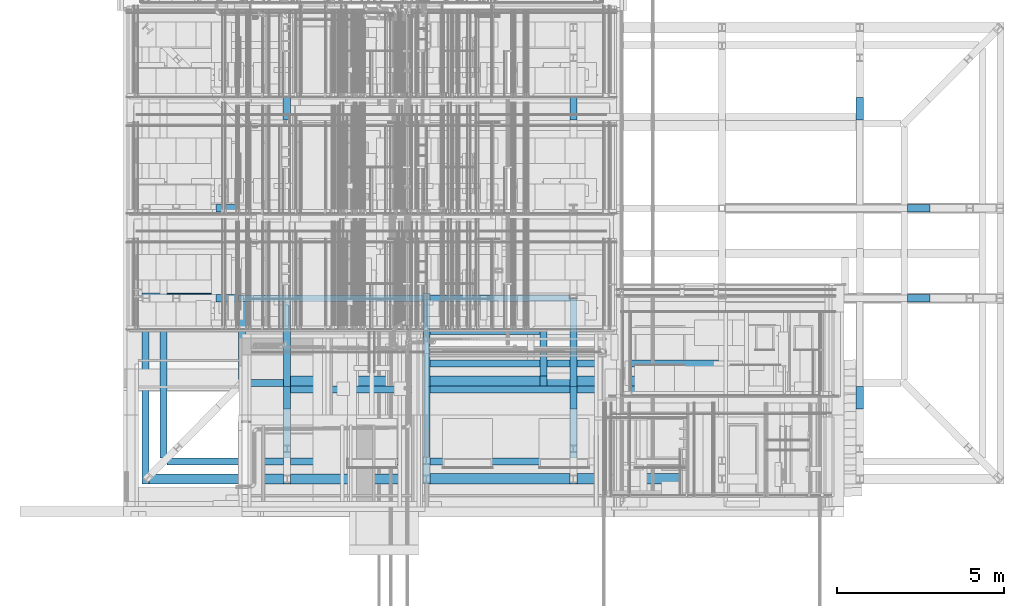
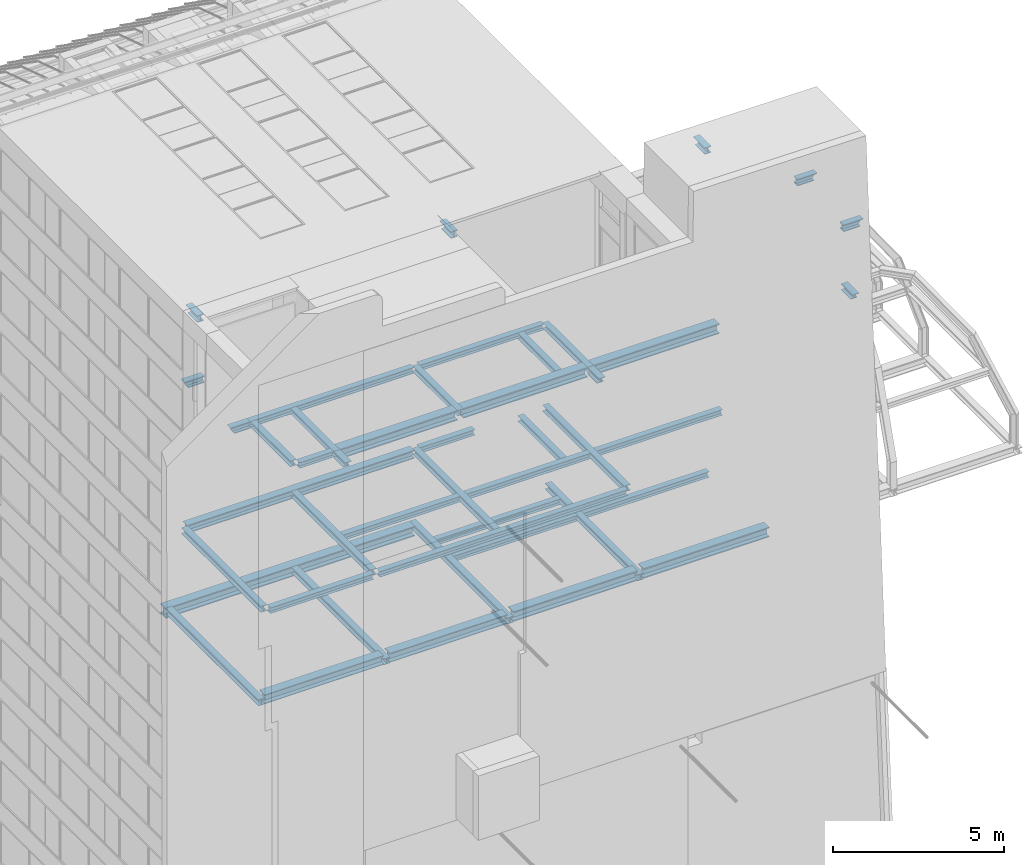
# One storey, part 4 of 583: 35 beams, 10 columns.
"""IFC2X3 building model written with IfcOpenShell, lengths in metres."""

from ifc_helpers import new_model, entity, si_unit, converted_unit, derived_unit, money_unit, direction, frame, origin_with_axes, place, context, subcontext, project, spatial, polyline, outline, extrude, clip, halfspace, material, type_object, element, save


model = new_model("IFC2X3")

# Units and contexts
model_context = context("Model", 3, precision=1e-05, world=origin_with_axes(), true_north=direction((0.0, 1.0)))
body_context = subcontext(model_context, "Body", "Model", "MODEL_VIEW", scale=1.0)
ifc_project = project(units=[si_unit("LENGTHUNIT", "METRE"), si_unit("AREAUNIT", "SQUARE_METRE"), si_unit("VOLUMEUNIT", "CUBIC_METRE"), si_unit("ABSORBEDDOSEUNIT", "GRAY"), si_unit("AMOUNTOFSUBSTANCEUNIT", "MOLE"), si_unit("DOSEEQUIVALENTUNIT", "SIEVERT"), si_unit("ELECTRICCAPACITANCEUNIT", "FARAD"), si_unit("ELECTRICCHARGEUNIT", "COULOMB"), si_unit("ELECTRICCONDUCTANCEUNIT", "SIEMENS"), si_unit("ELECTRICCURRENTUNIT", "AMPERE"), si_unit("ELECTRICRESISTANCEUNIT", "OHM"), si_unit("ELECTRICVOLTAGEUNIT", "VOLT"), si_unit("ENERGYUNIT", "JOULE"), si_unit("FORCEUNIT", "NEWTON"), si_unit("FREQUENCYUNIT", "HERTZ"), si_unit("ILLUMINANCEUNIT", "LUX"), si_unit("INDUCTANCEUNIT", "HENRY"), si_unit("LUMINOUSFLUXUNIT", "LUMEN"), si_unit("LUMINOUSINTENSITYUNIT", "CANDELA"), si_unit("MAGNETICFLUXDENSITYUNIT", "TESLA"), si_unit("MAGNETICFLUXUNIT", "WEBER"), si_unit("MASSUNIT", "GRAM"), converted_unit("PLANEANGLEUNIT", "degree", entity("IfcReal", 0.0174532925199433), si_unit("PLANEANGLEUNIT", "RADIAN"), dimensions=[0, 0, 0, 0, 0, 0, 0]), si_unit("POWERUNIT", "WATT"), si_unit("PRESSUREUNIT", "PASCAL"), si_unit("RADIOACTIVITYUNIT", "BECQUEREL"), si_unit("SOLIDANGLEUNIT", "STERADIAN"), si_unit("THERMODYNAMICTEMPERATUREUNIT", "KELVIN"), si_unit("TIMEUNIT", "SECOND"), derived_unit("ACCELERATIONUNIT", [(si_unit("LENGTHUNIT", "METRE"), 1), (si_unit("TIMEUNIT", "SECOND"), -2)]), derived_unit("ANGULARVELOCITYUNIT", [(converted_unit("PLANEANGLEUNIT", "degree", entity("IfcReal", 0.0174532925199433), si_unit("PLANEANGLEUNIT", "RADIAN"), dimensions=[0, 0, 0, 0, 0, 0, 0]), 1), (si_unit("TIMEUNIT", "SECOND"), -1)]), derived_unit("CURVATUREUNIT", [(converted_unit("PLANEANGLEUNIT", "degree", entity("IfcReal", 0.0174532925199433), si_unit("PLANEANGLEUNIT", "RADIAN"), dimensions=[0, 0, 0, 0, 0, 0, 0]), 1), (si_unit("LENGTHUNIT", "METRE"), -1)]), derived_unit("DYNAMICVISCOSITYUNIT", [(si_unit("PRESSUREUNIT", "PASCAL"), 1), (si_unit("TIMEUNIT", "SECOND"), 1)]), derived_unit("HEATFLUXDENSITYUNIT", [(si_unit("POWERUNIT", "WATT"), 1), (si_unit("LENGTHUNIT", "METRE"), -2)]), derived_unit("HEATINGVALUEUNIT", [(si_unit("ENERGYUNIT", "JOULE"), 1), (si_unit("MASSUNIT", "GRAM"), -1)]), derived_unit("INTEGERCOUNTRATEUNIT", [(si_unit("TIMEUNIT", "SECOND"), -1)]), derived_unit("IONCONCENTRATIONUNIT", [(si_unit("MASSUNIT", "GRAM"), 1), (si_unit("VOLUMEUNIT", "CUBIC_METRE"), -1)]), derived_unit("ISOTHERMALMOISTURECAPACITYUNIT", [(si_unit("VOLUMEUNIT", "CUBIC_METRE"), 1), (si_unit("MASSUNIT", "GRAM"), -1)]), derived_unit("KINEMATICVISCOSITYUNIT", [(si_unit("AREAUNIT", "SQUARE_METRE"), 1), (si_unit("TIMEUNIT", "SECOND"), -1)]), derived_unit("LINEARFORCEUNIT", [(si_unit("FORCEUNIT", "NEWTON"), 1), (si_unit("LENGTHUNIT", "METRE"), -1)]), derived_unit("LINEARMOMENTUNIT", [(si_unit("FORCEUNIT", "NEWTON"), 1), (si_unit("LENGTHUNIT", "METRE"), -1)]), derived_unit("LINEARSTIFFNESSUNIT", [(si_unit("FORCEUNIT", "NEWTON"), 1), (si_unit("LENGTHUNIT", "METRE"), -1)]), derived_unit("LINEARVELOCITYUNIT", [(si_unit("LENGTHUNIT", "METRE"), 1), (si_unit("TIMEUNIT", "SECOND"), -1)]), derived_unit("LUMINOUSINTENSITYDISTRIBUTIONUNIT", [(si_unit("LUMINOUSINTENSITYUNIT", "CANDELA"), 1), (si_unit("LUMINOUSFLUXUNIT", "LUMEN"), -1)]), derived_unit("MASSDENSITYUNIT", [(si_unit("MASSUNIT", "GRAM"), 1), (si_unit("VOLUMEUNIT", "CUBIC_METRE"), -1)]), derived_unit("MASSFLOWRATEUNIT", [(si_unit("MASSUNIT", "GRAM"), 1), (si_unit("TIMEUNIT", "SECOND"), -1)]), derived_unit("MASSPERLENGTHUNIT", [(si_unit("MASSUNIT", "GRAM"), 1), (si_unit("LENGTHUNIT", "METRE"), -1)]), derived_unit("MODULUSOFELASTICITYUNIT", [(si_unit("FORCEUNIT", "NEWTON"), 1), (si_unit("AREAUNIT", "SQUARE_METRE"), -1)]), derived_unit("MODULUSOFLINEARSUBGRADEREACTIONUNIT", [(si_unit("FORCEUNIT", "NEWTON"), 1), (si_unit("LENGTHUNIT", "METRE"), -2)]), derived_unit("MODULUSOFROTATIONALSUBGRADEREACTIONUNIT", [(si_unit("FORCEUNIT", "NEWTON"), 1), (si_unit("LENGTHUNIT", "METRE"), 1)]), derived_unit("MODULUSOFSUBGRADEREACTIONUNIT", [(si_unit("FORCEUNIT", "NEWTON"), 1), (si_unit("VOLUMEUNIT", "CUBIC_METRE"), -1)]), derived_unit("MOISTUREDIFFUSIVITYUNIT", [(si_unit("VOLUMEUNIT", "CUBIC_METRE"), 1), (si_unit("TIMEUNIT", "SECOND"), -1)]), derived_unit("MOLECULARWEIGHTUNIT", [(si_unit("MASSUNIT", "GRAM"), 1), (si_unit("AMOUNTOFSUBSTANCEUNIT", "MOLE"), -1)]), derived_unit("PLANARFORCEUNIT", [(si_unit("FORCEUNIT", "NEWTON"), 1), (si_unit("LENGTHUNIT", "METRE"), -2)]), derived_unit("ROTATIONALFREQUENCYUNIT", [(si_unit("TIMEUNIT", "SECOND"), -1)]), derived_unit("ROTATIONALMASSUNIT", [(si_unit("MASSUNIT", "GRAM"), 1), (si_unit("LENGTHUNIT", "METRE"), 2)]), derived_unit("ROTATIONALSTIFFNESSUNIT", [(si_unit("FORCEUNIT", "NEWTON"), 1), (si_unit("LENGTHUNIT", "METRE"), 1), (converted_unit("PLANEANGLEUNIT", "degree", entity("IfcReal", 0.0174532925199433), si_unit("PLANEANGLEUNIT", "RADIAN"), dimensions=[0, 0, 0, 0, 0, 0, 0]), -1)]), derived_unit("SECTIONAREAINTEGRALUNIT", [(si_unit("LENGTHUNIT", "METRE"), 5)]), derived_unit("SECTIONMODULUSUNIT", [(si_unit("LENGTHUNIT", "METRE"), 3)]), derived_unit("SHEARMODULUSUNIT", [(si_unit("FORCEUNIT", "NEWTON"), 1), (si_unit("AREAUNIT", "SQUARE_METRE"), -1)]), derived_unit("SOUNDPOWERUNIT", [(si_unit("ENERGYUNIT", "JOULE"), 1), (si_unit("TIMEUNIT", "SECOND"), -1)]), derived_unit("SPECIFICHEATCAPACITYUNIT", [(si_unit("FORCEUNIT", "NEWTON"), 1), (si_unit("MASSUNIT", "GRAM"), -1), (si_unit("THERMODYNAMICTEMPERATUREUNIT", "KELVIN"), -1)]), derived_unit("TEMPERATUREGRADIENTUNIT", [(si_unit("THERMODYNAMICTEMPERATUREUNIT", "KELVIN"), 1), (si_unit("LENGTHUNIT", "METRE"), -1)]), derived_unit("THERMALADMITTANCEUNIT", [(si_unit("POWERUNIT", "WATT"), 1), (si_unit("AREAUNIT", "SQUARE_METRE"), -1), (si_unit("THERMODYNAMICTEMPERATUREUNIT", "KELVIN"), -1)]), derived_unit("THERMALCONDUCTANCEUNIT", [(si_unit("POWERUNIT", "WATT"), 1), (si_unit("LENGTHUNIT", "METRE"), -1), (si_unit("THERMODYNAMICTEMPERATUREUNIT", "KELVIN"), -1)]), derived_unit("THERMALEXPANSIONCOEFFICIENTUNIT", [(si_unit("THERMODYNAMICTEMPERATUREUNIT", "KELVIN"), -1)]), derived_unit("THERMALRESISTANCEUNIT", [(si_unit("AREAUNIT", "SQUARE_METRE"), 1), (si_unit("POWERUNIT", "WATT"), -1)]), derived_unit("THERMALTRANSMITTANCEUNIT", [(si_unit("POWERUNIT", "WATT"), 1), (si_unit("AREAUNIT", "SQUARE_METRE"), -1), (si_unit("THERMODYNAMICTEMPERATUREUNIT", "KELVIN"), -1)]), derived_unit("TORQUEUNIT", [(si_unit("FORCEUNIT", "NEWTON"), 1), (si_unit("LENGTHUNIT", "METRE"), 1)]), derived_unit("VAPORPERMEABILITYUNIT", [(si_unit("MASSUNIT", "GRAM"), 1), (si_unit("TIMEUNIT", "SECOND"), -1)]), derived_unit("VOLUMETRICFLOWRATEUNIT", [(si_unit("VOLUMEUNIT", "CUBIC_METRE"), 1), (si_unit("TIMEUNIT", "SECOND"), -1)]), derived_unit("WARPINGCONSTANTUNIT", [(si_unit("LENGTHUNIT", "METRE"), 6)]), derived_unit("WARPINGMOMENTUNIT", [(si_unit("FORCEUNIT", "NEWTON"), 1), (si_unit("LENGTHUNIT", "METRE"), 2)]), money_unit("GBP")], contexts=[model_context])

# Site, building, storey
site_placement = place(None, origin_with_axes())
site = spatial("IfcSite", under=ifc_project, at=site_placement, Name="Site", CompositionType="ELEMENT")
building_placement = place(site_placement, origin_with_axes())
building = spatial("IfcBuilding", under=site, at=building_placement, Name="Building01", CompositionType="ELEMENT")
storey_placement = place(building_placement, frame((0.0, 0.0, 20.78), z_axis=(0.0, 0.0, 1.0), x_axis=(1.0, 0.0, 0.0)))
storey = spatial("IfcBuildingStorey", under=building, at=storey_placement, Name="RL", CompositionType="ELEMENT", Elevation=20.78)

# Columns
ifc_material_1 = material(Name="A_BSUK_Columns_Steel")
column_type = type_object("IfcColumnType", Name="A-Columns-Steel", PredefinedType="COLUMN")
column_1_placement = place(storey_placement, frame((21.98305, 2.773181, -0.2), z_axis=(0.0, 1.0, 0.0), x_axis=(1.0, 0.0, 0.0)))
element("IfcColumn", 1, at=column_1_placement, inside=storey, type_object=column_type, material=ifc_material_1, Name="A2", ObjectType="A-Columns-Steel", context=body_context, shape_type="Clipping", body=[
    clip(clip(extrude(outline(polyline([(0.2139, 0.0), (0.2139, 0.0301), (0.116, 0.0301), (0.116, 0.2113), (0.2139, 0.2113), (0.2139, 0.2414), (0.0, 0.2414), (0.0, 0.2113), (0.0979, 0.2113), (0.0979, 0.0301), (0.0, 0.0301), (0.0, 0.0), (0.2139, 0.0)])), origin_with_axes(), (0.0, 0.0, 1.0), 0.677619), halfspace(frame((0.0, 0.0, 0.0), z_axis=(0.0, -0.46174861, 0.88701083), x_axis=(1.0, 0.0, 0.0)), True)), halfspace(frame((0.0, 0.0, 0.0), z_axis=(0.0, -0.15643447, 0.98768834), x_axis=(1.0, 0.0, 0.0)), True)),
])
column_2_placement = place(storey_placement, frame((13.39305, 2.773181, -0.2), z_axis=(0.0, 1.0, 0.0), x_axis=(1.0, 0.0, 0.0)))
element("IfcColumn", 2, at=column_2_placement, inside=storey, type_object=column_type, material=ifc_material_1, Name="A2", ObjectType="A-Columns-Steel", context=body_context, shape_type="Clipping", body=[
    clip(clip(extrude(outline(polyline([(0.2139, 0.0), (0.2139, 0.0301), (0.116, 0.0301), (0.116, 0.2113), (0.2139, 0.2113), (0.2139, 0.2414), (0.0, 0.2414), (0.0, 0.2113), (0.0979, 0.2113), (0.0979, 0.0301), (0.0, 0.0301), (0.0, 0.0), (0.2139, 0.0)])), origin_with_axes(), (0.0, 0.0, 1.0), 0.677495), halfspace(frame((0.0, 0.0, 0.0), z_axis=(0.0, -0.46174861, 0.88701083), x_axis=(1.0, 0.0, 0.0)), True)), halfspace(frame((0.0, 0.0, 0.0), z_axis=(0.0, -0.15643447, 0.98768834), x_axis=(1.0, 0.0, 0.0)), True)),
])
column_3_placement = place(storey_placement, frame((4.80305, 2.773181, -0.2), z_axis=(0.0, 1.0, 0.0), x_axis=(1.0, 0.0, 0.0)))
element("IfcColumn", 3, at=column_3_placement, inside=storey, type_object=column_type, material=ifc_material_1, Name="A2", ObjectType="A-Columns-Steel", context=body_context, shape_type="Clipping", body=[
    clip(clip(extrude(outline(polyline([(0.2139, 0.0), (0.2139, 0.0301), (0.116, 0.0301), (0.116, 0.2113), (0.2139, 0.2113), (0.2139, 0.2414), (0.0, 0.2414), (0.0, 0.2113), (0.0979, 0.2113), (0.0979, 0.0301), (0.0, 0.0301), (0.0, 0.0), (0.2139, 0.0)])), origin_with_axes(), (0.0, 0.0, 1.0), 0.677619), halfspace(frame((0.0, 0.0, 0.0), z_axis=(0.0, -0.46174861, 0.88701083), x_axis=(1.0, 0.0, 0.0)), True)), halfspace(frame((0.0, 0.0, 0.0), z_axis=(0.0, -0.15643447, 0.98768834), x_axis=(1.0, 0.0, 0.0)), True)),
])
for number, where, z_axis, x_axis, name in (
    (4, (4.80305, 11.4492, -0.2), (0.0, 1.0, 0.0), (1.0, 0.0, 0.0), "A2"),
    (5, (13.39305, 11.4492, -0.2), (0.0, 1.0, 0.0), (1.0, 0.0, 0.0), "A2"),
    (6, (21.98305, 11.4492, -0.2), (0.0, 1.0, 0.0), (1.0, 0.0, 0.0), "A2"),
):
    element("IfcColumn", number, at=place(storey_placement, frame(where, z_axis=z_axis, x_axis=x_axis)), inside=storey, type_object=column_type, material=ifc_material_1, Name=name, ObjectType="A-Columns-Steel", context=body_context, shape_type="Clipping", body=[
        clip(clip(extrude(outline(polyline([(0.2139, 0.0), (0.2139, 0.0301), (0.116, 0.0301), (0.116, 0.2113), (0.2139, 0.2113), (0.2139, 0.2414), (0.0, 0.2414), (0.0, 0.2113), (0.0979, 0.2113), (0.0979, 0.0301), (0.0, 0.0301), (0.0, 0.0), (0.2139, 0.0)])), origin_with_axes(), (0.0, 0.0, 1.0), 0.677619), halfspace(frame((0.0, 0.277536, 0.533143), z_axis=(0.0, -0.46174861, -0.88701083), x_axis=(-1.0, 0.0, 0.0)), True)), halfspace(frame((0.0, 0.104698, 0.661036), z_axis=(0.0, -0.15643447, -0.98768834), x_axis=(-1.0, 0.0, 0.0)), True)),
    ])
for number, where, z_axis, x_axis, name in (
    (7, (3.4512, 8.69305, -0.2), (-1.0, 0.0, 0.0), (0.0, 1.0, 0.0), "A2"),
    (8, (3.4512, 5.99305, -0.2), (-1.0, 0.0, 0.0), (0.0, 1.0, 0.0), "A2"),
):
    element("IfcColumn", number, at=place(storey_placement, frame(where, z_axis=z_axis, x_axis=x_axis)), inside=storey, type_object=column_type, material=ifc_material_1, Name=name, ObjectType="A-Columns-Steel", context=body_context, shape_type="Clipping", body=[
        clip(clip(extrude(outline(polyline([(0.2139, 0.0), (0.2139, 0.0301), (0.116, 0.0301), (0.116, 0.2113), (0.2139, 0.2113), (0.2139, 0.2414), (0.0, 0.2414), (0.0, 0.2113), (0.0979, 0.2113), (0.0979, 0.0301), (0.0, 0.0301), (0.0, 0.0), (0.2139, 0.0)])), origin_with_axes(), (0.0, 0.0, 1.0), 0.672919), halfspace(frame((0.0, 0.275611, 0.529445), z_axis=(0.0, -0.46174861, -0.88701083), x_axis=(-1.0, 0.0, 0.0)), True)), halfspace(frame((0.0, 0.103972, 0.656451), z_axis=(0.0, -0.15643447, -0.98768834), x_axis=(-1.0, 0.0, 0.0)), True)),
    ])
for number, where, z_axis, x_axis, name in (
    (9, (24.201719, 8.69305, -0.2), (-1.0, 0.0, 0.0), (0.0, 1.0, 0.0), "A2"),
    (10, (24.201719, 5.99305, -0.2), (-1.0, 0.0, 0.0), (0.0, 1.0, 0.0), "A2"),
):
    element("IfcColumn", number, at=place(storey_placement, frame(where, z_axis=z_axis, x_axis=x_axis)), inside=storey, type_object=column_type, material=ifc_material_1, Name=name, ObjectType="A-Columns-Steel", context=body_context, shape_type="Clipping", body=[
        clip(clip(extrude(outline(polyline([(0.2139, 0.0), (0.2139, 0.0301), (0.116, 0.0301), (0.116, 0.2113), (0.2139, 0.2113), (0.2139, 0.2414), (0.0, 0.2414), (0.0, 0.2113), (0.0979, 0.2113), (0.0979, 0.0301), (0.0, 0.0301), (0.0, 0.0), (0.2139, 0.0)])), origin_with_axes(), (0.0, 0.0, 1.0), 0.672717), halfspace(frame((0.0, 0.0, 0.0), z_axis=(0.0, -0.46174861, 0.88701083), x_axis=(1.0, 0.0, 0.0)), True)), halfspace(frame((0.0, 0.0, 0.0), z_axis=(0.0, -0.15643447, 0.98768834), x_axis=(1.0, 0.0, 0.0)), True)),
    ])

# Beams
ifc_material_2 = material(Name="A_BSUK_Beams_Steel")
beam_type = type_object("IfcBeamType", Name="A-Beams-Steel", PredefinedType="BEAM")
beam_1_placement = place(storey_placement, frame((9.19455, 0.52, -6.0532), z_axis=(1.0, 0.0, 0.0), x_axis=(0.0, 1.0, 0.0)))
element("IfcBeam", 11, at=beam_1_placement, inside=storey, type_object=beam_type, material=ifc_material_2, Name="A-Beams-Steel", ObjectType="A-Beams-Steel", context=body_context, shape_type="SweptSolid", body=[
    extrude(outline(polyline([(0.3184, 0.0), (0.3184, 0.0377), (0.1707, 0.0377), (0.1707, 0.3148), (0.3184, 0.3148), (0.3184, 0.3525), (0.0, 0.3525), (0.0, 0.3148), (0.1477, 0.3148), (0.1477, 0.0377), (0.0, 0.0377), (0.0, 0.0), (0.3184, 0.0)])), origin_with_axes(), (0.0, 0.0, 1.0), 4.2009),
])
beam_2_placement = place(storey_placement, frame((0.56, 5.9408, -6.2025), z_axis=(1.0, 0.0, 0.0), x_axis=(0.0, 1.0, 0.0)))
element("IfcBeam", 12, at=beam_2_placement, inside=storey, type_object=beam_type, material=ifc_material_2, Name="A-Beams-Steel", ObjectType="A-Beams-Steel", context=body_context, shape_type="SweptSolid", body=[
    extrude(outline(polyline([(0.3184, 0.0), (0.3184, 0.0377), (0.1707, 0.0377), (0.1707, 0.3148), (0.3184, 0.3148), (0.3184, 0.3525), (0.0, 0.3525), (0.0, 0.3148), (0.1477, 0.3148), (0.1477, 0.0377), (0.0, 0.0377), (0.0, 0.0), (0.3184, 0.0)])), origin_with_axes(), (0.0, 0.0, 1.0), 8.42545),
])
for number, where, z_axis, x_axis, name in (
    (13, (0.56, 5.9408, -6.0532), (0.0, -1.0, 0.0), (1.0, 0.0, 0.0), "A-Beams-Steel"),
    (14, (4.80545, 5.9408, -6.0722), (0.0, -1.0, 0.0), (1.0, 0.0, 0.0), "A-Beams-Steel"),
):
    element("IfcBeam", number, at=place(storey_placement, frame(where, z_axis=z_axis, x_axis=x_axis)), inside=storey, type_object=beam_type, material=ifc_material_2, Name=name, ObjectType="A-Beams-Steel", context=body_context, shape_type="SweptSolid", body=[
        extrude(outline(polyline([(0.2091, 0.0), (0.2091, 0.0205), (0.1109, 0.0205), (0.1109, 0.2017), (0.2091, 0.2017), (0.2091, 0.2222), (0.0, 0.2222), (0.0, 0.2017), (0.0982, 0.2017), (0.0982, 0.0205), (0.0, 0.0205), (0.0, 0.0), (0.2091, 0.0)])), origin_with_axes(), (0.0, 0.0, 1.0), 5.4208),
    ])
beam_3_placement = place(storey_placement, frame((8.98545, 6.2592, -6.0722), z_axis=(0.0, -1.0, 0.0), x_axis=(1.0, 0.0, 0.0)))
element("IfcBeam", 15, at=beam_3_placement, inside=storey, type_object=beam_type, material=ifc_material_2, Name="A-Beams-Steel", ObjectType="A-Beams-Steel", context=body_context, shape_type="SweptSolid", body=[
    extrude(outline(polyline([(0.2091, 0.0), (0.2091, 0.0205), (0.1109, 0.0205), (0.1109, 0.2017), (0.2091, 0.2017), (0.2091, 0.2222), (0.0, 0.2222), (0.0, 0.2017), (0.0982, 0.2017), (0.0982, 0.0205), (0.0, 0.0205), (0.0, 0.0), (0.2091, 0.0)])), origin_with_axes(), (0.0, 0.0, 1.0), 5.7392),
])
beam_4_placement = place(storey_placement, frame((13.39545, 5.9408, -6.0722), z_axis=(0.0, -1.0, 0.0), x_axis=(1.0, 0.0, 0.0)))
element("IfcBeam", 16, at=beam_4_placement, inside=storey, type_object=beam_type, material=ifc_material_2, Name="A-Beams-Steel", ObjectType="A-Beams-Steel", context=body_context, shape_type="SweptSolid", body=[
    extrude(outline(polyline([(0.2091, 0.0), (0.2091, 0.0205), (0.1109, 0.0205), (0.1109, 0.2017), (0.2091, 0.2017), (0.2091, 0.2222), (0.0, 0.2222), (0.0, 0.2017), (0.0982, 0.2017), (0.0982, 0.0205), (0.0, 0.0205), (0.0, 0.0), (0.2091, 0.0)])), origin_with_axes(), (0.0, 0.0, 1.0), 5.4208),
])
for number, where, z_axis, x_axis, name in (
    (17, (9.19455, 5.0182, -6.0532), (1.0, 0.0, 0.0), (0.0, 1.0, 0.0), "A-Beams-Steel"),
    (18, (9.19455, 4.0382, -6.0532), (1.0, 0.0, 0.0), (0.0, 1.0, 0.0), "A-Beams-Steel"),
):
    element("IfcBeam", number, at=place(storey_placement, frame(where, z_axis=z_axis, x_axis=x_axis)), inside=storey, type_object=beam_type, material=ifc_material_2, Name=name, ObjectType="A-Beams-Steel", context=body_context, shape_type="SweptSolid", body=[
        extrude(outline(polyline([(0.2036, 0.0), (0.2036, 0.011), (0.1054, 0.011), (0.1054, 0.1922), (0.2036, 0.1922), (0.2036, 0.2032), (0.0, 0.2032), (0.0, 0.1922), (0.0982, 0.1922), (0.0982, 0.011), (0.0, 0.011), (0.0, 0.0), (0.2036, 0.0)])), origin_with_axes(), (0.0, 0.0, 1.0), 4.2009),
    ])
beam_5_placement = place(storey_placement, frame((13.60455, 4.0382, -6.0532), z_axis=(1.0, 0.0, 0.0), x_axis=(0.0, 1.0, 0.0)))
element("IfcBeam", 19, at=beam_5_placement, inside=storey, type_object=beam_type, material=ifc_material_2, Name="A-Beams-Steel", ObjectType="A-Beams-Steel", context=body_context, shape_type="SweptSolid", body=[
    extrude(outline(polyline([(0.2036, 0.0), (0.2036, 0.011), (0.1054, 0.011), (0.1054, 0.1922), (0.2036, 0.1922), (0.2036, 0.2032), (0.0, 0.2032), (0.0, 0.1922), (0.0982, 0.1922), (0.0982, 0.011), (0.0, 0.011), (0.0, 0.0), (0.2036, 0.0)])), origin_with_axes(), (0.0, 0.0, 1.0), 4.2509),
])
beam_6_placement = place(storey_placement, frame((13.60455, 0.52, -6.0532), z_axis=(1.0, 0.0, 0.0), x_axis=(0.0, 1.0, 0.0)))
element("IfcBeam", 20, at=beam_6_placement, inside=storey, type_object=beam_type, material=ifc_material_2, Name="A-Beams-Steel", ObjectType="A-Beams-Steel", context=body_context, shape_type="SweptSolid", body=[
    extrude(outline(polyline([(0.3184, 0.0), (0.3184, 0.0377), (0.1707, 0.0377), (0.1707, 0.3148), (0.3184, 0.3148), (0.3184, 0.3525), (0.0, 0.3525), (0.0, 0.3148), (0.1477, 0.3148), (0.1477, 0.0377), (0.0, 0.0377), (0.0, 0.0), (0.3184, 0.0)])), origin_with_axes(), (0.0, 0.0, 1.0), 4.2509),
])
beam_7_placement = place(storey_placement, frame((5.01455, 0.52, -6.0532), z_axis=(1.0, 0.0, 0.0), x_axis=(0.0, 1.0, 0.0)))
element("IfcBeam", 21, at=beam_7_placement, inside=storey, type_object=beam_type, material=ifc_material_2, Name="A-Beams-Steel", ObjectType="A-Beams-Steel", context=body_context, shape_type="SweptSolid", body=[
    extrude(outline(polyline([(0.3112, 0.0), (0.3112, 0.025), (0.1635, 0.025), (0.1635, 0.3021), (0.3112, 0.3021), (0.3112, 0.3271), (0.0, 0.3271), (0.0, 0.3021), (0.1477, 0.3021), (0.1477, 0.025), (0.0, 0.025), (0.0, 0.0), (0.3112, 0.0)])), origin_with_axes(), (0.0, 0.0, 1.0), 3.9709),
])
beam_8_placement = place(storey_placement, frame((0.7691, 0.52, -6.0532), z_axis=(1.0, 0.0, 0.0), x_axis=(0.0, 1.0, 0.0)))
element("IfcBeam", 22, at=beam_8_placement, inside=storey, type_object=beam_type, material=ifc_material_2, Name="A-Beams-Steel", ObjectType="A-Beams-Steel", context=body_context, shape_type="SweptSolid", body=[
    extrude(outline(polyline([(0.3112, 0.0), (0.3112, 0.025), (0.1635, 0.025), (0.1635, 0.3021), (0.3112, 0.3021), (0.3112, 0.3271), (0.0, 0.3271), (0.0, 0.3021), (0.1477, 0.3021), (0.1477, 0.025), (0.0, 0.025), (0.0, 0.0), (0.3112, 0.0)])), origin_with_axes(), (0.0, 0.0, 1.0), 4.03635),
])
beam_9_placement = place(storey_placement, frame((9.1918, 3.4508, -0.5525), z_axis=(1.0, 0.0, 0.0), x_axis=(0.0, 1.0, 0.0)))
element("IfcBeam", 23, at=beam_9_placement, inside=storey, type_object=beam_type, material=ifc_material_2, Name="A-Beams-Steel", ObjectType="A-Beams-Steel", context=body_context, shape_type="SweptSolid", body=[
    extrude(outline(polyline([(0.3184, 0.0), (0.3184, 0.0377), (0.1707, 0.0377), (0.1707, 0.3148), (0.3184, 0.3148), (0.3184, 0.3525), (0.0, 0.3525), (0.0, 0.3148), (0.1477, 0.3148), (0.1477, 0.0377), (0.0, 0.0377), (0.0, 0.0), (0.3184, 0.0)])), origin_with_axes(), (0.0, 0.0, 1.0), 4.2064),
])
beam_10_placement = place(storey_placement, frame((4.808222, 5.9968, -0.4032), z_axis=(0.0, -1.0, 0.0), x_axis=(1.0, 0.0, 0.0)))
element("IfcBeam", 24, at=beam_10_placement, inside=storey, type_object=beam_type, material=ifc_material_2, Name="A-Beams-Steel", ObjectType="A-Beams-Steel", context=body_context, shape_type="SweptSolid", body=[
    extrude(outline(polyline([(0.2036, 0.0), (0.2036, 0.011), (0.1054, 0.011), (0.1054, 0.1922), (0.2036, 0.1922), (0.2036, 0.2032), (0.0, 0.2032), (0.0, 0.1922), (0.0982, 0.1922), (0.0982, 0.011), (0.0, 0.011), (0.0, 0.0), (0.2036, 0.0)])), origin_with_axes(), (0.0, 0.0, 1.0), 2.546),
])
beam_11_placement = place(storey_placement, frame((3.4512, 5.9968, -0.4032), z_axis=(0.0, -1.0, 0.0), x_axis=(1.0, 0.0, 0.0)))
element("IfcBeam", 25, at=beam_11_placement, inside=storey, type_object=beam_type, material=ifc_material_2, Name="A-Beams-Steel", ObjectType="A-Beams-Steel", context=body_context, shape_type="SweptSolid", body=[
    extrude(outline(polyline([(0.2036, 0.0), (0.2036, 0.011), (0.1054, 0.011), (0.1054, 0.1922), (0.2036, 0.1922), (0.2036, 0.2032), (0.0, 0.2032), (0.0, 0.1922), (0.0982, 0.1922), (0.0982, 0.011), (0.0, 0.011), (0.0, 0.0), (0.2036, 0.0)])), origin_with_axes(), (0.0, 0.0, 1.0), 2.3424),
])
beam_12_placement = place(storey_placement, frame((3.6548, 3.4508, -0.4032), z_axis=(1.0, 0.0, 0.0), x_axis=(0.0, 1.0, 0.0)))
element("IfcBeam", 26, at=beam_12_placement, inside=storey, type_object=beam_type, material=ifc_material_2, Name="A-Beams-Steel", ObjectType="A-Beams-Steel", context=body_context, shape_type="SweptSolid", body=[
    extrude(outline(polyline([(0.2036, 0.0), (0.2036, 0.011), (0.1054, 0.011), (0.1054, 0.1922), (0.2036, 0.1922), (0.2036, 0.2032), (0.0, 0.2032), (0.0, 0.1922), (0.0982, 0.1922), (0.0982, 0.011), (0.0, 0.011), (0.0, 0.0), (0.2036, 0.0)])), origin_with_axes(), (0.0, 0.0, 1.0), 1.153422),
])
for number, where, z_axis, x_axis, name in (
    (27, (8.9882, 6.1, -0.4032), (0.0, -1.0, 0.0), (1.0, 0.0, 0.0), "A-Beams-Steel"),
    (28, (13.3982, 6.1, -0.4032), (0.0, -1.0, 0.0), (1.0, 0.0, 0.0), "A-Beams-Steel"),
):
    element("IfcBeam", number, at=place(storey_placement, frame(where, z_axis=z_axis, x_axis=x_axis)), inside=storey, type_object=beam_type, material=ifc_material_2, Name=name, ObjectType="A-Beams-Steel", context=body_context, shape_type="SweptSolid", body=[
        extrude(outline(polyline([(0.2036, 0.0), (0.2036, 0.011), (0.1054, 0.011), (0.1054, 0.1922), (0.2036, 0.1922), (0.2036, 0.2032), (0.0, 0.2032), (0.0, 0.1922), (0.0982, 0.1922), (0.0982, 0.011), (0.0, 0.011), (0.0, 0.0), (0.2036, 0.0)])), origin_with_axes(), (0.0, 0.0, 1.0), 2.6492),
    ])
beam_13_placement = place(storey_placement, frame((12.4982, 5.9982, -0.4032), z_axis=(0.0, -1.0, 0.0), x_axis=(1.0, 0.0, 0.0)))
element("IfcBeam", 29, at=beam_13_placement, inside=storey, type_object=beam_type, material=ifc_material_2, Name="A-Beams-Steel", ObjectType="A-Beams-Steel", context=body_context, shape_type="SweptSolid", body=[
    extrude(outline(polyline([(0.2036, 0.0), (0.2036, 0.011), (0.1054, 0.011), (0.1054, 0.1922), (0.2036, 0.1922), (0.2036, 0.2032), (0.0, 0.2032), (0.0, 0.1922), (0.0982, 0.1922), (0.0982, 0.011), (0.0, 0.011), (0.0, 0.0), (0.2036, 0.0)])), origin_with_axes(), (0.0, 0.0, 1.0), 2.229),
])
beam_14_placement = place(storey_placement, frame((9.1918, 5.9982, -0.4032), z_axis=(1.0, 0.0, 0.0), x_axis=(0.0, 1.0, 0.0)))
element("IfcBeam", 30, at=beam_14_placement, inside=storey, type_object=beam_type, material=ifc_material_2, Name="A-Beams-Steel", ObjectType="A-Beams-Steel", context=body_context, shape_type="SweptSolid", body=[
    extrude(outline(polyline([(0.2036, 0.0), (0.2036, 0.011), (0.1054, 0.011), (0.1054, 0.1922), (0.2036, 0.1922), (0.2036, 0.2032), (0.0, 0.2032), (0.0, 0.1922), (0.0982, 0.1922), (0.0982, 0.011), (0.0, 0.011), (0.0, 0.0), (0.2036, 0.0)])), origin_with_axes(), (0.0, 0.0, 1.0), 4.2082),
])
beam_15_placement = place(storey_placement, frame((3.4512, 5.9968, -0.4158), z_axis=(1.0, 0.0, 0.0), x_axis=(0.0, 1.0, 0.0)))
element("IfcBeam", 31, at=beam_15_placement, inside=storey, type_object=beam_type, material=ifc_material_2, Name="A-Beams-Steel", ObjectType="A-Beams-Steel", context=body_context, shape_type="SweptSolid", body=[
    extrude(outline(polyline([(0.2064, 0.0), (0.2064, 0.0173), (0.1082, 0.0173), (0.1082, 0.1985), (0.2064, 0.1985), (0.2064, 0.2158), (0.0, 0.2158), (0.0, 0.1985), (0.0982, 0.1985), (0.0982, 0.0173), (0.0, 0.0173), (0.0, 0.0), (0.2064, 0.0)])), origin_with_axes(), (0.0, 0.0, 1.0), 5.537),
])
beam_16_placement = place(storey_placement, frame((13.6018, 3.4508, -0.5525), z_axis=(1.0, 0.0, 0.0), x_axis=(0.0, 1.0, 0.0)))
element("IfcBeam", 32, at=beam_16_placement, inside=storey, type_object=beam_type, material=ifc_material_2, Name="A-Beams-Steel", ObjectType="A-Beams-Steel", context=body_context, shape_type="SweptSolid", body=[
    extrude(outline(polyline([(0.3184, 0.0), (0.3184, 0.0377), (0.1707, 0.0377), (0.1707, 0.3148), (0.3184, 0.3148), (0.3184, 0.3525), (0.0, 0.3525), (0.0, 0.3148), (0.1477, 0.3148), (0.1477, 0.0377), (0.0, 0.0377), (0.0, 0.0), (0.3184, 0.0)])), origin_with_axes(), (0.0, 0.0, 1.0), 4.2564),
])
beam_17_placement = place(storey_placement, frame((5.011822, 3.4508, -0.5525), z_axis=(1.0, 0.0, 0.0), x_axis=(0.0, 1.0, 0.0)))
element("IfcBeam", 33, at=beam_17_placement, inside=storey, type_object=beam_type, material=ifc_material_2, Name="A-Beams-Steel", ObjectType="A-Beams-Steel", context=body_context, shape_type="SweptSolid", body=[
    extrude(outline(polyline([(0.3184, 0.0), (0.3184, 0.0377), (0.1707, 0.0377), (0.1707, 0.3148), (0.3184, 0.3148), (0.3184, 0.3525), (0.0, 0.3525), (0.0, 0.3148), (0.1477, 0.3148), (0.1477, 0.0377), (0.0, 0.0377), (0.0, 0.0), (0.3184, 0.0)])), origin_with_axes(), (0.0, 0.0, 1.0), 3.976378),
])
beam_18_placement = place(storey_placement, frame((1.3032, 1.0982, -3.3532), z_axis=(1.0, 0.0, 0.0), x_axis=(0.0, 1.0, 0.0)))
element("IfcBeam", 34, at=beam_18_placement, inside=storey, type_object=beam_type, material=ifc_material_2, Name="A-Beams-Steel", ObjectType="A-Beams-Steel", context=body_context, shape_type="SweptSolid", body=[
    extrude(outline(polyline([(0.2036, 0.0), (0.2036, 0.011), (0.1054, 0.011), (0.1054, 0.1922), (0.2036, 0.1922), (0.2036, 0.2032), (0.0, 0.2032), (0.0, 0.1922), (0.0982, 0.1922), (0.0982, 0.011), (0.0, 0.011), (0.0, 0.0), (0.2036, 0.0)])), origin_with_axes(), (0.0, 0.0, 1.0), 3.5036),
])
beam_19_placement = place(storey_placement, frame((5.0132, 1.0982, -3.3532), z_axis=(1.0, 0.0, 0.0), x_axis=(0.0, 1.0, 0.0)))
element("IfcBeam", 35, at=beam_19_placement, inside=storey, type_object=beam_type, material=ifc_material_2, Name="A-Beams-Steel", ObjectType="A-Beams-Steel", context=body_context, shape_type="SweptSolid", body=[
    extrude(outline(polyline([(0.2036, 0.0), (0.2036, 0.011), (0.1054, 0.011), (0.1054, 0.1922), (0.2036, 0.1922), (0.2036, 0.2032), (0.0, 0.2032), (0.0, 0.1922), (0.0982, 0.1922), (0.0982, 0.011), (0.0, 0.011), (0.0, 0.0), (0.2036, 0.0)])), origin_with_axes(), (0.0, 0.0, 1.0), 8.3836),
])
for number, where, z_axis, x_axis, name in (
    (36, (1.0968, 5.967373, -3.3658), (0.0, -1.0, 0.0), (1.0, 0.0, 0.0), "A-Beams-Steel"),
    (37, (4.8068, 5.967373, -3.3658), (0.0, -1.0, 0.0), (1.0, 0.0, 0.0), "A-Beams-Steel"),
):
    element("IfcBeam", number, at=place(storey_placement, frame(where, z_axis=z_axis, x_axis=x_axis)), inside=storey, type_object=beam_type, material=ifc_material_2, Name=name, ObjectType="A-Beams-Steel", context=body_context, shape_type="SweptSolid", body=[
        extrude(outline(polyline([(0.2064, 0.0), (0.2064, 0.0173), (0.1082, 0.0173), (0.1082, 0.1985), (0.2064, 0.1985), (0.2064, 0.2158), (0.0, 0.2158), (0.0, 0.1985), (0.0982, 0.1985), (0.0982, 0.0173), (0.0, 0.0173), (0.0, 0.0), (0.2064, 0.0)])), origin_with_axes(), (0.0, 0.0, 1.0), 4.665573),
    ])
for number, where, z_axis, x_axis, name in (
    (38, (8.9868, 6.1, -3.3658), (0.0, -1.0, 0.0), (1.0, 0.0, 0.0), "A-Beams-Steel"),
    (39, (13.3968, 6.1, -3.3658), (0.0, -1.0, 0.0), (1.0, 0.0, 0.0), "A-Beams-Steel"),
):
    element("IfcBeam", number, at=place(storey_placement, frame(where, z_axis=z_axis, x_axis=x_axis)), inside=storey, type_object=beam_type, material=ifc_material_2, Name=name, ObjectType="A-Beams-Steel", context=body_context, shape_type="SweptSolid", body=[
        extrude(outline(polyline([(0.2064, 0.0), (0.2064, 0.0173), (0.1082, 0.0173), (0.1082, 0.1985), (0.2064, 0.1985), (0.2064, 0.2158), (0.0, 0.2158), (0.0, 0.1985), (0.0982, 0.1985), (0.0982, 0.0173), (0.0, 0.0173), (0.0, 0.0), (0.2064, 0.0)])), origin_with_axes(), (0.0, 0.0, 1.0), 4.7982),
    ])
beam_20_placement = place(storey_placement, frame((12.4982, 5.998193, -3.3532), z_axis=(0.0, -1.0, 0.0), x_axis=(1.0, 0.0, 0.0)))
element("IfcBeam", 40, at=beam_20_placement, inside=storey, type_object=beam_type, material=ifc_material_2, Name="A-Beams-Steel", ObjectType="A-Beams-Steel", context=body_context, shape_type="SweptSolid", body=[
    extrude(outline(polyline([(0.2036, 0.0), (0.2036, 0.011), (0.1054, 0.011), (0.1054, 0.1922), (0.2036, 0.1922), (0.2036, 0.2032), (0.0, 0.2032), (0.0, 0.1922), (0.0982, 0.1922), (0.0982, 0.011), (0.0, 0.011), (0.0, 0.0), (0.2036, 0.0)])), origin_with_axes(), (0.0, 0.0, 1.0), 2.536393),
])
beam_21_placement = place(storey_placement, frame((9.1932, 5.998199, -3.3532), z_axis=(1.0, 0.0, 0.0), x_axis=(0.0, 1.0, 0.0)))
element("IfcBeam", 41, at=beam_21_placement, inside=storey, type_object=beam_type, material=ifc_material_2, Name="A-Beams-Steel", ObjectType="A-Beams-Steel", context=body_context, shape_type="SweptSolid", body=[
    extrude(outline(polyline([(0.2036, 0.0), (0.2036, 0.011), (0.1054, 0.011), (0.1054, 0.1922), (0.2036, 0.1922), (0.2036, 0.2032), (0.0, 0.2032), (0.0, 0.1922), (0.0982, 0.1922), (0.0982, 0.011), (0.0, 0.011), (0.0, 0.0), (0.2036, 0.0)])), origin_with_axes(), (0.0, 0.0, 1.0), 1.865),
])
beam_22_placement = place(storey_placement, frame((13.6032, 3.2582, -3.3532), z_axis=(1.0, 0.0, 0.0), x_axis=(0.0, 1.0, 0.0)))
element("IfcBeam", 42, at=beam_22_placement, inside=storey, type_object=beam_type, material=ifc_material_2, Name="A-Beams-Steel", ObjectType="A-Beams-Steel", context=body_context, shape_type="SweptSolid", body=[
    extrude(outline(polyline([(0.2036, 0.0), (0.2036, 0.011), (0.1054, 0.011), (0.1054, 0.1922), (0.2036, 0.1922), (0.2036, 0.2032), (0.0, 0.2032), (0.0, 0.1922), (0.0982, 0.1922), (0.0982, 0.011), (0.0, 0.011), (0.0, 0.0), (0.2036, 0.0)])), origin_with_axes(), (0.0, 0.0, 1.0), 4.2536),
])
beam_23_placement = place(storey_placement, frame((9.1932, 3.2582, -3.3532), z_axis=(1.0, 0.0, 0.0), x_axis=(0.0, 1.0, 0.0)))
element("IfcBeam", 43, at=beam_23_placement, inside=storey, type_object=beam_type, material=ifc_material_2, Name="A-Beams-Steel", ObjectType="A-Beams-Steel", context=body_context, shape_type="SweptSolid", body=[
    extrude(outline(polyline([(0.2036, 0.0), (0.2036, 0.011), (0.1054, 0.011), (0.1054, 0.1922), (0.2036, 0.1922), (0.2036, 0.2032), (0.0, 0.2032), (0.0, 0.1922), (0.0982, 0.1922), (0.0982, 0.011), (0.0, 0.011), (0.0, 0.0), (0.2036, 0.0)])), origin_with_axes(), (0.0, 0.0, 1.0), 4.203576),
])
beam_24_placement = place(storey_placement, frame((5.0132, 3.2582, -3.3532), z_axis=(1.0, 0.0, 0.0), x_axis=(0.0, 1.0, 0.0)))
element("IfcBeam", 44, at=beam_24_placement, inside=storey, type_object=beam_type, material=ifc_material_2, Name="A-Beams-Steel", ObjectType="A-Beams-Steel", context=body_context, shape_type="SweptSolid", body=[
    extrude(outline(polyline([(0.2036, 0.0), (0.2036, 0.011), (0.1054, 0.011), (0.1054, 0.1922), (0.2036, 0.1922), (0.2036, 0.2032), (0.0, 0.2032), (0.0, 0.1922), (0.0982, 0.1922), (0.0982, 0.011), (0.0, 0.011), (0.0, 0.0), (0.2036, 0.0)])), origin_with_axes(), (0.0, 0.0, 1.0), 3.9736),
])
beam_25_placement = place(storey_placement, frame((1.3018, 5.967427, -3.4391), z_axis=(1.0, 0.0, 0.0), x_axis=(0.0, 1.0, 0.0)))
element("IfcBeam", 45, at=beam_25_placement, inside=storey, type_object=beam_type, material=ifc_material_2, Name="A-Beams-Steel", ObjectType="A-Beams-Steel", context=body_context, shape_type="SweptSolid", body=[
    extrude(outline(polyline([(0.2652, 0.0), (0.2652, 0.0317), (0.1422, 0.0317), (0.1422, 0.2574), (0.2652, 0.2574), (0.2652, 0.2891), (0.0, 0.2891), (0.0, 0.2574), (0.123, 0.2574), (0.123, 0.0317), (0.0, 0.0317), (0.0, 0.0), (0.2652, 0.0)])), origin_with_axes(), (0.0, 0.0, 1.0), 7.685),
])

save(model, "model.ifc")
